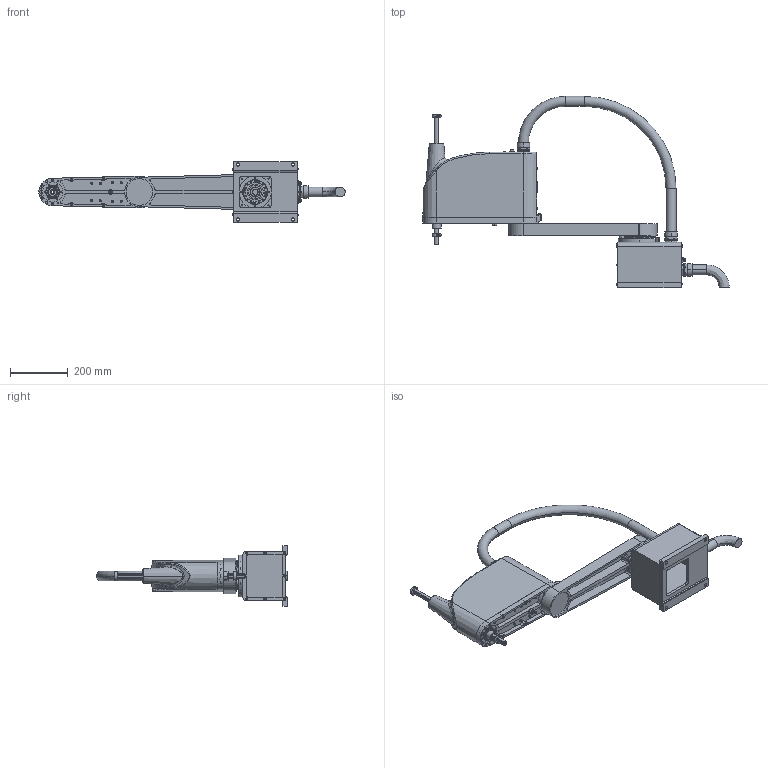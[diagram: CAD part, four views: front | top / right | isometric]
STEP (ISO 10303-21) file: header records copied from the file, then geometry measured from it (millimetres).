
FILE_DESCRIPTION (( 'STEP AP203' ), '1' );
FILE_NAME ('AR7225-C_外发.STEP', '2019-10-23T01:19:44', ( '微软用户' ), ( '微软中国' ), 'SwSTEP 2.0', 'SolidWorks 2018', '' );
FILE_SCHEMA (( 'CONFIG_CONTROL_DESIGN' ));
Length unit declared in the file: millimetre
Products named in the file (7): AR7225-C_X; AR7225-C_Z+R; AR7225-C_菁釱; 儂旯萇擢_0_AR7220-A; AR7225-C_Y; 帣盄; AR7225-C_俋楷
Assembly tree (6 placements, depth 2):
  AR7225-C_俋楷
    AR7225-C_菁釱
    AR7225-C_X
    AR7225-C_Y
    AR7225-C_Z+R
    儂旯萇擢_0_AR7220-A
    帣盄
Bounding box: 1058.25 x 660.45 x 210 mm (x, y, z)
Volume: 1038821 mm3; surface area: 1171233.6 mm2
Topology: 2 solids, 258 shells, 1978 faces, 6049 edges, 4271 vertices
Faces by surface type: plane 877, cylinder 736, cone 178, bspline 167, torus 18, sphere 2
Entity records: 101197 total; most frequent: CARTESIAN_POINT 48151, DIRECTION 10763, ORIENTED_EDGE 9564, EDGE_CURVE 5976, VERTEX_POINT 4271, AXIS2_PLACEMENT_3D 3856, VECTOR 3051, LINE 3051
